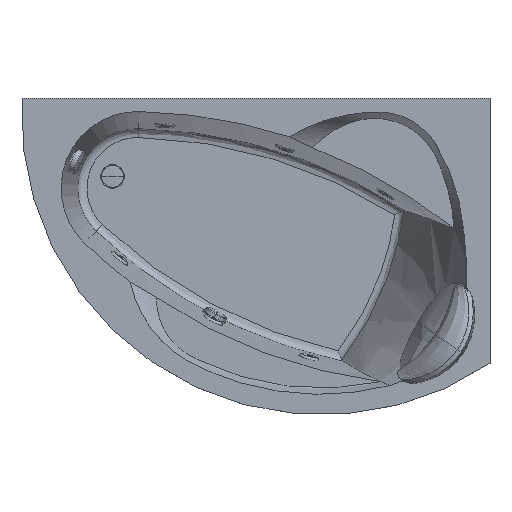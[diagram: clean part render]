
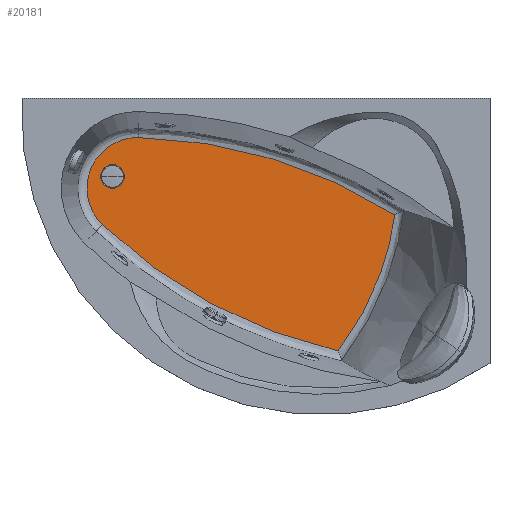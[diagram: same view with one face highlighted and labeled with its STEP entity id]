
A CAD part, top view. The second image highlights one B-rep face of the part: STEP entity #20181.
In plain terms, the highlighted planar face has unit normal (0, 0, 1).
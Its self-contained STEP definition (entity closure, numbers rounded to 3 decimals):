
#19193=CARTESIAN_POINT('',(-304.807,-373.369,-403.));
#19194=VERTEX_POINT('',#19193);
#19208=CARTESIAN_POINT('',(-486.649,-809.507,-403.0));
#19209=VERTEX_POINT('',#19208);
#19210=CARTESIAN_POINT('',(-486.649,-809.507,-403.));
#19211=CARTESIAN_POINT('',(-483.513,-805.493,-403.));
#19212=CARTESIAN_POINT('',(-475.331,-794.842,-403.));
#19213=CARTESIAN_POINT('',(-464.012,-779.323,-403.0));
#19214=CARTESIAN_POINT('',(-450.351,-759.577,-403.0));
#19215=CARTESIAN_POINT('',(-429.434,-727.484,-403.0));
#19216=CARTESIAN_POINT('',(-402.25,-680.187,-403.0));
#19217=CARTESIAN_POINT('',(-376.92,-627.38,-403.0));
#19218=CARTESIAN_POINT('',(-361.224,-589.013,-403.));
#19219=CARTESIAN_POINT('',(-353.14,-567.302,-403.));
#19220=CARTESIAN_POINT('',(-349.42,-556.831,-403.));
#19221=CARTESIAN_POINT('',(-347.071,-550.017,-403.));
#19222=CARTESIAN_POINT('',(-345.273,-544.719,-403.));
#19223=CARTESIAN_POINT('',(-342.938,-537.608,-403.));
#19224=CARTESIAN_POINT('',(-340.007,-528.451,-403.));
#19225=CARTESIAN_POINT('',(-336.133,-515.84,-403.));
#19226=CARTESIAN_POINT('',(-332.414,-503.093,-403.));
#19227=CARTESIAN_POINT('',(-328.596,-489.268,-403.));
#19228=CARTESIAN_POINT('',(-322.455,-465.841,-403.));
#19229=CARTESIAN_POINT('',(-314.416,-430.791,-403.));
#19230=CARTESIAN_POINT('',(-308.221,-396.371,-403.));
#19231=CARTESIAN_POINT('',(-305.353,-377.173,-403.));
#19232=CARTESIAN_POINT('',(-304.807,-373.369,-403.));
#19233=B_SPLINE_CURVE_WITH_KNOTS('',3,(#19210,#19211,#19212,#19213,#19214,#19215,#19216,#19217,#19218,#19219,#19220,#19221,#19222,#19223,#19224,#19225,#19226,#19227,#19228,#19229,#19230,#19231,#19232),.UNSPECIFIED.,.F.,.U.,(4,1,1,1,1,1,1,1,1,1,1,1,1,1,1,1,1,1,1,1,4),(18.05,33.333,58.34,75.668,105.362,173.246,239.205,280.951,297.573,308.705,314.287,319.194,325.49,336.741,348.036,365.07,376.573,391.063,437.723,484.424,495.953),.UNSPECIFIED.);
#19234=EDGE_CURVE('',#19209,#19194,#19233,.T.);
#19374=CARTESIAN_POINT('',(-1241.679,-405.136,-403.));
#19375=VERTEX_POINT('',#19374);
#19376=CARTESIAN_POINT('',(-136.769,750.848,-403.));
#19377=DIRECTION('',(0.,0.,1.0));
#19378=DIRECTION('',(-0.691,-0.723,0.));
#19379=AXIS2_PLACEMENT_3D('',#19376,#19377,#19378);
#19380=CIRCLE('',#19379,1599.102);
#19381=EDGE_CURVE('',#19375,#19209,#19380,.T.);
#19454=CARTESIAN_POINT('',(-1126.06,-125.576,-403.));
#19455=VERTEX_POINT('',#19454);
#19463=CARTESIAN_POINT('',(-1160.429,-1724.308,-403.));
#19464=DIRECTION('',(0.,0.,1.));
#19465=DIRECTION('',(0.021,1.,0.));
#19466=AXIS2_PLACEMENT_3D('',#19463,#19464,#19465);
#19467=CIRCLE('',#19466,1599.102);
#19468=EDGE_CURVE('',#19194,#19455,#19467,.T.);
#19783=CARTESIAN_POINT('',(-1129.548,-287.822,-403.));
#19784=DIRECTION('',(0.,0.,1.0));
#19785=DIRECTION('',(0.021,1.,0.));
#19786=AXIS2_PLACEMENT_3D('',#19783,#19784,#19785);
#19787=CIRCLE('',#19786,162.283);
#19788=EDGE_CURVE('',#19455,#19375,#19787,.T.);
#20108=CARTESIAN_POINT('',(-1248.191,-250.,-403.));
#20109=VERTEX_POINT('',#20108);
#20116=CARTESIAN_POINT('',(-1171.809,-250.,-403.));
#20117=VERTEX_POINT('',#20116);
#20118=CARTESIAN_POINT('',(-1210.0,-250.,-403.));
#20119=DIRECTION('',(0.,0.,1.0));
#20120=DIRECTION('',(-1.0,0.,0.0));
#20121=AXIS2_PLACEMENT_3D('',#20118,#20119,#20120);
#20122=CIRCLE('',#20121,38.191);
#20123=EDGE_CURVE('',#20109,#20117,#20122,.T.);
#20155=CARTESIAN_POINT('',(-1210.0,-250.,-403.));
#20156=DIRECTION('',(0.,0.,1.0));
#20157=DIRECTION('',(-1.0,0.,0.0));
#20158=AXIS2_PLACEMENT_3D('',#20155,#20156,#20157);
#20159=CIRCLE('',#20158,38.191);
#20160=EDGE_CURVE('',#20117,#20109,#20159,.T.);
#20166=CARTESIAN_POINT('',(-571.756,-955.796,-403.0));
#20167=DIRECTION('',(0.0,0.0,1.0));
#20168=DIRECTION('',(0.601,0.799,0.0));
#20169=AXIS2_PLACEMENT_3D('',#20166,#20167,#20168);
#20170=PLANE('',#20169);
#20171=ORIENTED_EDGE('',*,*,#19788,.T.);
#20172=ORIENTED_EDGE('',*,*,#19381,.T.);
#20173=ORIENTED_EDGE('',*,*,#19234,.T.);
#20174=ORIENTED_EDGE('',*,*,#19468,.T.);
#20175=EDGE_LOOP('',(#20171,#20172,#20173,#20174));
#20176=FACE_OUTER_BOUND('',#20175,.T.);
#20177=ORIENTED_EDGE('',*,*,#20160,.F.);
#20178=ORIENTED_EDGE('',*,*,#20123,.F.);
#20179=EDGE_LOOP('',(#20177,#20178));
#20180=FACE_BOUND('',#20179,.T.);
#20181=ADVANCED_FACE('',(#20176,#20180),#20170,.T.);
